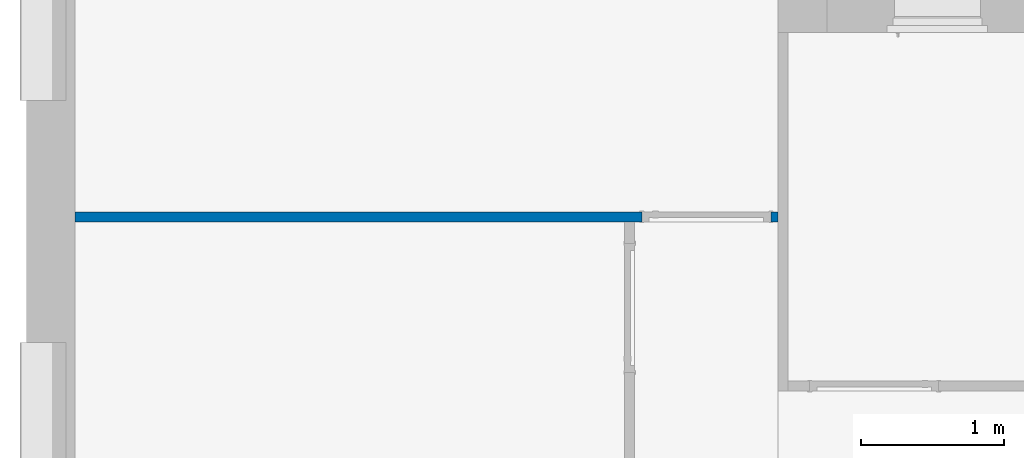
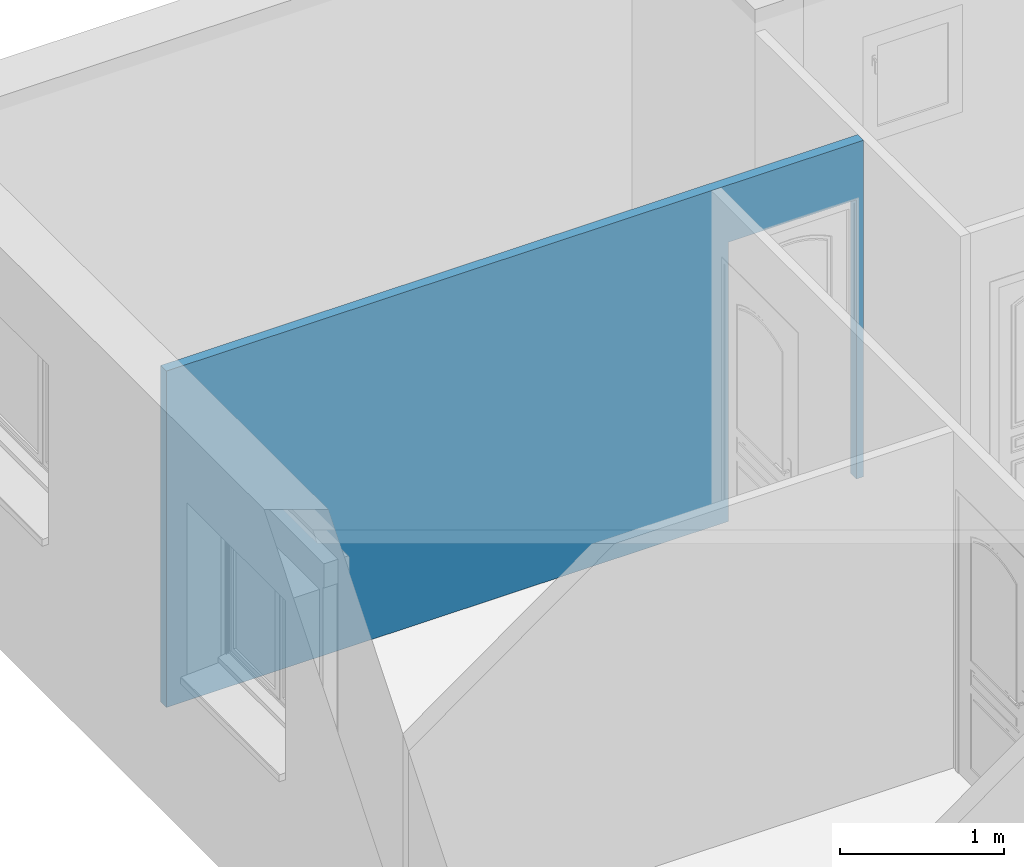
# One storey, part 14 of 23: 1 wall, 1 opening.
"""IFC2X3 building model written with IfcOpenShell, lengths in metres."""

from ifc_helpers import new_model, entity, si_unit, converted_unit, derived_unit, direction, frame, frame_2d, origin, place, context, subcontext, project, spatial, rectangle, extrude, material, layer, layer_set, layer_usage, type_object, element, save


model = new_model("IFC2X3")

# Units and contexts
model_context = context("Model", 3, precision=1e-05, world=origin(), true_north=direction((6.12303176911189e-17, 1.0)))
body_context = subcontext(model_context, "Body", "Model", "MODEL_VIEW")
ifc_project = project(units=[si_unit("LENGTHUNIT", "METRE"), si_unit("AREAUNIT", "SQUARE_METRE"), si_unit("VOLUMEUNIT", "CUBIC_METRE"), converted_unit("PLANEANGLEUNIT", "DEGREE", entity("IfcRatioMeasure", 0.0174532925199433), si_unit("PLANEANGLEUNIT", "RADIAN"), dimensions=[0, 0, 0, 0, 0, 0, 0]), si_unit("MASSUNIT", "GRAM", prefix="KILO"), derived_unit("MASSDENSITYUNIT", [(si_unit("MASSUNIT", "GRAM", prefix="KILO"), 1), (si_unit("LENGTHUNIT", "METRE"), -3)]), si_unit("TIMEUNIT", "SECOND"), si_unit("FREQUENCYUNIT", "HERTZ"), si_unit("THERMODYNAMICTEMPERATUREUNIT", "DEGREE_CELSIUS"), derived_unit("THERMALTRANSMITTANCEUNIT", [(si_unit("MASSUNIT", "GRAM", prefix="KILO"), 1), (si_unit("THERMODYNAMICTEMPERATUREUNIT", "KELVIN"), -1), (si_unit("TIMEUNIT", "SECOND"), -3)]), derived_unit("VOLUMETRICFLOWRATEUNIT", [(si_unit("LENGTHUNIT", "METRE"), 3), (si_unit("TIMEUNIT", "SECOND"), -1)]), si_unit("ELECTRICCURRENTUNIT", "AMPERE"), si_unit("ELECTRICVOLTAGEUNIT", "VOLT"), si_unit("POWERUNIT", "WATT"), si_unit("FORCEUNIT", "NEWTON", prefix="KILO"), si_unit("ILLUMINANCEUNIT", "LUX"), si_unit("LUMINOUSFLUXUNIT", "LUMEN"), si_unit("LUMINOUSINTENSITYUNIT", "CANDELA"), derived_unit("USERDEFINED", [(si_unit("MASSUNIT", "GRAM", prefix="KILO"), -1), (si_unit("LENGTHUNIT", "METRE"), -2), (si_unit("TIMEUNIT", "SECOND"), 3), (si_unit("LUMINOUSFLUXUNIT", "LUMEN"), 1)]), derived_unit("LINEARVELOCITYUNIT", [(si_unit("LENGTHUNIT", "METRE"), 1), (si_unit("TIMEUNIT", "SECOND"), -1)]), si_unit("PRESSUREUNIT", "PASCAL"), derived_unit("USERDEFINED", [(si_unit("LENGTHUNIT", "METRE"), -2), (si_unit("MASSUNIT", "GRAM", prefix="KILO"), 1), (si_unit("TIMEUNIT", "SECOND"), -2)])], contexts=[model_context])

# Site, building, storey
site_placement = place(None, origin())
site = spatial("IfcSite", under=ifc_project, at=site_placement, Name="Default", CompositionType="ELEMENT")
building_placement = place(site_placement, origin())
building = spatial("IfcBuilding", under=site, at=building_placement, CompositionType="ELEMENT")
storey_placement = place(building_placement, origin())
storey = spatial("IfcBuildingStorey", under=building, at=storey_placement, Name="2 - Rez de Chaussée", CompositionType="ELEMENT", Elevation=-1.94916083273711e-14)

# Wall, opening
ifc_material = material(Name="Mur par défaut")
ifc_layer = layer(ifc_material, 0.07)
ifc_layer_set = layer_set([ifc_layer], Name="Mur de base:Cloison distributive Placostil® 72/48 - 1x Placoplatre® BA 13 avec M 48 - EI30 - 33dB - max 3,45m")
ifc_layer_usage = layer_usage(ifc_layer_set, "AXIS2", "NEGATIVE", 0.035)
wall_type = type_object("IfcWallType", Name="Mur de base:Cloison distributive Placostil® 72/48 - 1x Placoplatre® BA 13 avec M 48 - EI30 - 33dB - max 3,45m", PredefinedType="STANDARD", material=ifc_layer_set)
wall_placement = place(storey_placement, frame((-9.59622246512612, 3.51305500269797, 0.0)))
wall = element("IfcWallStandardCase", 1, at=wall_placement, inside=storey, type_object=wall_type, material=ifc_layer_usage, Name="Mur de base:Cloison distributive Placostil® 72/48 - 1x Placoplatre® BA 13 avec M 48 - EI30 - 33dB - max 3,45m", ObjectType="Mur de base:Cloison distributive Placostil® 72/48 - 1x Placoplatre® BA 13 avec M 48 - EI30 - 33dB - max 3,45m", context=body_context, shape_type="SweptSolid", body=[
    extrude(rectangle(XDim=4.90000000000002, YDim=0.0700000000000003, at=frame_2d((2.45000000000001, -5.55111512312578e-17), x_axis=(-1.0, 0.0))), origin(), (0.0, 0.0, 1.0), 2.50000000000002),
])
opening_placement = place(wall_placement, frame((3.95000000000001, -0.0349999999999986, 0.0)))
element("IfcOpeningElement", 2, at=opening_placement, cuts=wall, Name="Int. Simple - moulures:PP Moulure cintrée (0.83 m x 2.04 m):1", ObjectType="Opening", context=body_context, shape_type="SweptSolid", body=[
    extrude(rectangle(XDim=2.075, YDim=0.9, at=frame_2d((1.0375, 0.45), x_axis=(1.0, 0.0))), frame((0.0, 0.0, 0.0), z_axis=(0.0, 1.0, 0.0), x_axis=(0.0, 0.0, 1.0)), (0.0, 0.0, 1.0), 0.07),
])

save(model, "model.ifc")
